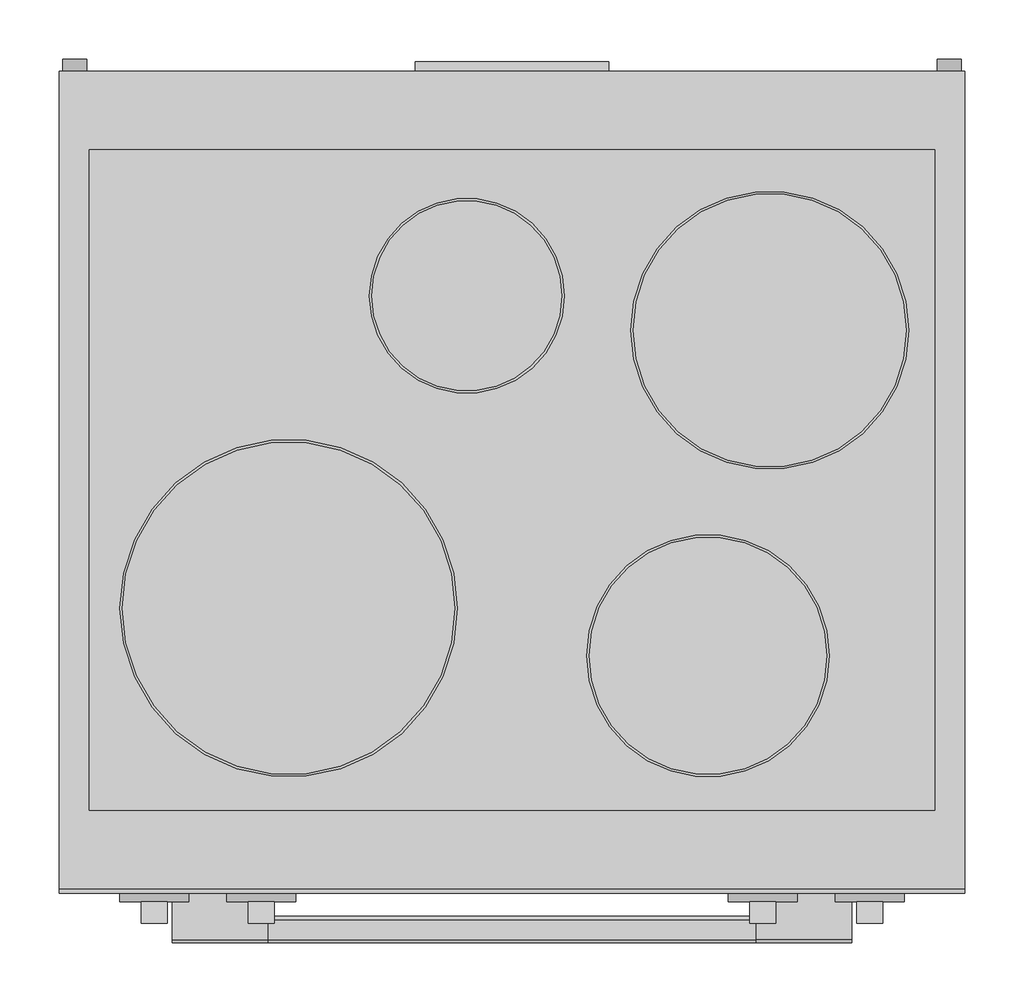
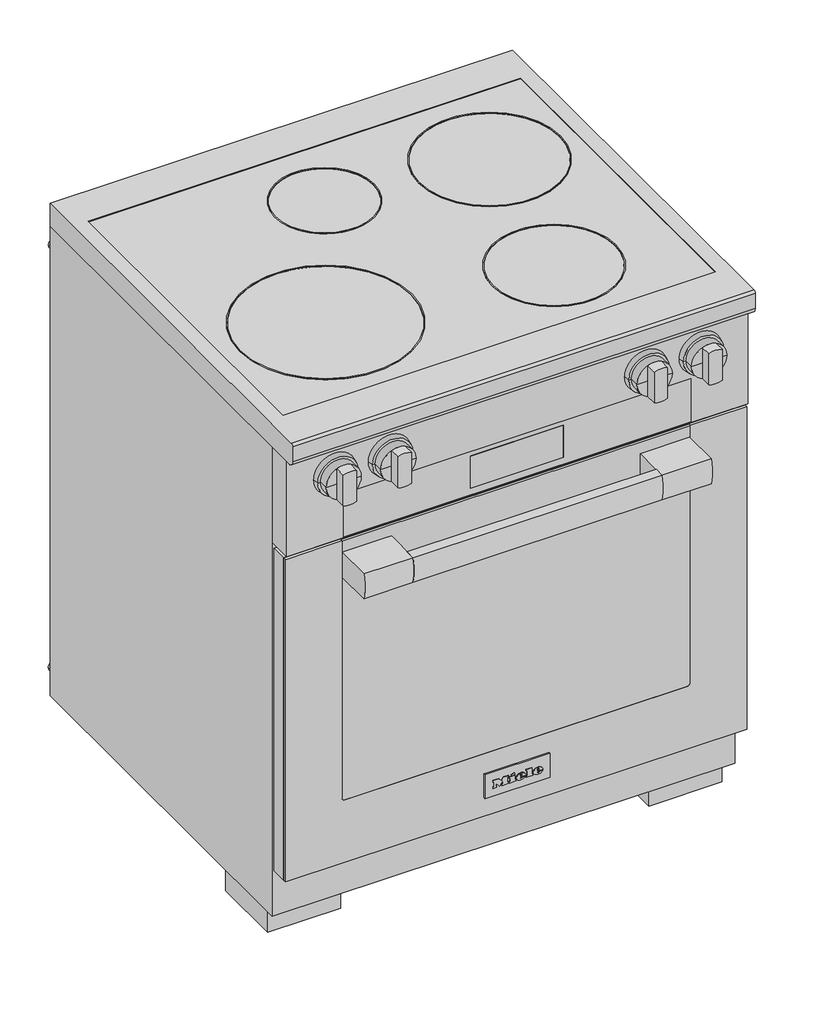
# Not in any storey: 1 proxy.
"""IFC4 building model written with IfcOpenShell, lengths in millimetres."""

from ifc_helpers import new_model, si_unit, origin, place, context, project, spatial, transform, mapped, element, save
from components import specialty_equipment_b242dd7c

model = new_model("IFC4")

# Units and contexts
model_context = context("Model", 3, world=origin())
ifc_project = project(units=[si_unit("LENGTHUNIT", "METRE", prefix="MILLI")], contexts=[model_context])

# Site, building
site = spatial("IfcSite", under=ifc_project)
building = spatial("IfcBuilding", under=site)

# Proxy
placement = place(None, origin())
specialty_equipment_shape = specialty_equipment_b242dd7c(model_context)
element("IfcBuildingElementProxy", 1, Name="11791520_USA_HR1622-3_EDST-CLST : 25162281_USA_11791520_HR1622-3_EDST-CLST", ObjectType="11791520_USA_HR1622-3_EDST-CLST : 25162281_USA_11791520_HR1622-3_EDST-CLST", at=placement, inside=building, context=model_context, shape_type="MappedRepresentation", body=[
    mapped(specialty_equipment_shape, transform((0.0, 0.0, 0.0), x_axis=(1.0, 0.0, 0.0), y_axis=(0.0, 1.0, 0.0), z_axis=(0.0, 0.0, 1.0))),
])

save(model, "model.ifc")
